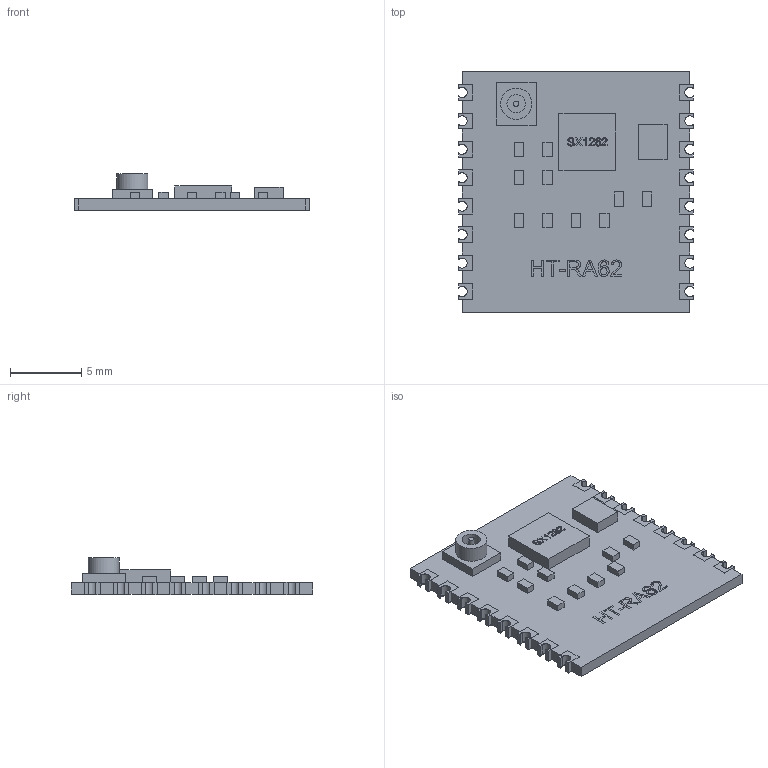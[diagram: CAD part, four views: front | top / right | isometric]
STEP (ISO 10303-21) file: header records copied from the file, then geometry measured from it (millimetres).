
FILE_DESCRIPTION(('Open CASCADE Model'),'2;1');
FILE_NAME('Open CASCADE Shape Model','2026-10-09T18:49:14',('Author'),( 'Open CASCADE'),'Open CASCADE STEP processor 7.9','Open CASCADE 7.9' ,'Unknown');
FILE_SCHEMA(('AUTOMOTIVE_DESIGN { 1 0 10303 214 1 1 1 1 }'));
Length unit declared in the file: millimetre
Products named in the file (35): Heltec_HT_RA62_Approx; PCB; castellation0_0; castellation0_1; castellation0_2; castellation0_3; castellation0_4; castellation0_5; castellation0_6; castellation0_7; castellation1_0; castellation1_1; castellation1_2; castellation1_3; castellation1_4; castellation1_5; castellation1_6; castellation1_7; SX1262; mark_18; crystal; IPEX_base; IPEX_shell; IPEX_contact; passive0; passive1; passive2; passive3; passive4; passive5; passive6; passive7; passive8; passive9; mark_33
Assembly tree (34 placements, depth 2):
  Heltec_HT_RA62_Approx
    PCB
    castellation0_0
    castellation0_1
    castellation0_2
    castellation0_3
    castellation0_4
    castellation0_5
    castellation0_6
    castellation0_7
    castellation1_0
    castellation1_1
    castellation1_2
    castellation1_3
    castellation1_4
    castellation1_5
    castellation1_6
    castellation1_7
    SX1262
    mark_18
    crystal
    IPEX_base
    IPEX_shell
    IPEX_contact
    passive0
    passive1
    passive2
    passive3
    passive4
    passive5
    passive6
    passive7
    passive8
    passive9
    mark_33
Bounding box: 16.5 x 17 x 2.65 mm (x, y, z)
Volume: 255.3 mm3; surface area: 836 mm2
Topology: 45 solids, 45 shells, 523 faces, 1299 edges, 866 vertices
Faces by surface type: plane 321, extrusion 167, cylinder 35
Full cylindrical faces by diameter (mm): 0.38 x1, 1.3 x1, 2.2 x1
Entity records: 33456 total; most frequent: CARTESIAN_POINT 7503, DIRECTION 4056, VECTOR 3128, LINE 2961, ORIENTED_EDGE 2598, PCURVE 2598, DEFINITIONAL_REPRESENTATION 2598, EDGE_CURVE 1299
